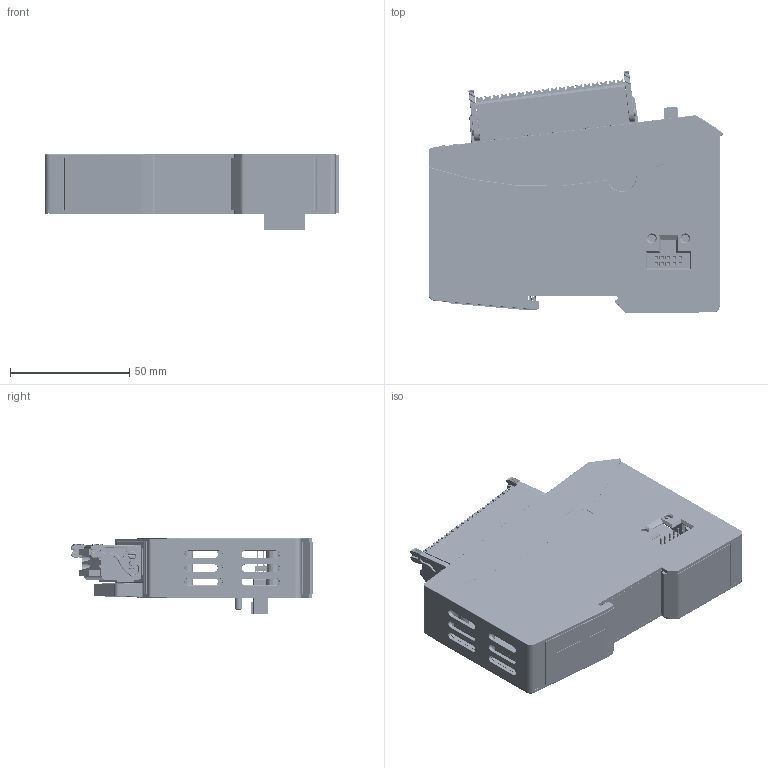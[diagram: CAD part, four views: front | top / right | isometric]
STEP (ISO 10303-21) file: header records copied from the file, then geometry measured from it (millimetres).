
FILE_DESCRIPTION(('CATIA V5 STEP Exchange'),'2;1');
FILE_NAME('Z:\DE\Automation\Data\Exchange\Dreiack\#694_Parker\3D-Daten 694\694_16_16.stp','2014-05-09T07:22:56+00:00',('none'),('none'),'CATIA Version 5 Release 19 SP 9 (IN-10)','CATIA V5 STEP AP214','none');
FILE_SCHEMA(('AUTOMOTIVE_DESIGN { 1 0 10303 214 1 1 1 1 }'));
Products named in the file (1): KEB-IO_16_16_059
Bounding box: 123.57 x 101.63 x 31.7 mm (x, y, z)
Volume: 92595.8 mm3; surface area: 115332.1 mm2
Topology: 3 solids, 80 shells, 8882 faces, 24268 edges, 15426 vertices
Faces by surface type: plane 5954, cylinder 2053, torus 369, cone 322, sphere 110, bspline 54, extrusion 16, revolution 4
Entity records: 280469 total; most frequent: CARTESIAN_POINT 69308, ORIENTED_EDGE 48310, DIRECTION 35429, EDGE_CURVE 24155, VECTOR 17483, LINE 17467, VERTEX_POINT 15426, AXIS2_PLACEMENT_3D 11258
